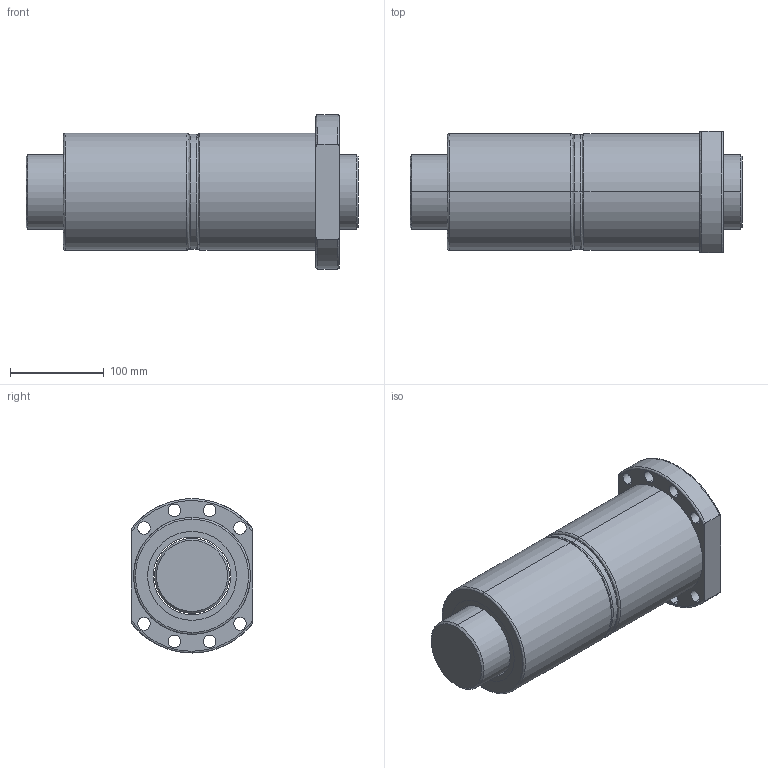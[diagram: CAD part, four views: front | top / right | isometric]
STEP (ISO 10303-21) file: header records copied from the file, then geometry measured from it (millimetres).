
FILE_DESCRIPTION (( 'STEP AP203' ), '1' );
FILE_NAME ('DFU08020.STEP', '2013-01-21T15:36:07', ( 'Halezer' ), ( '' ), 'SwSTEP 2.0', 'SolidWorks 2010', '' );
FILE_SCHEMA (( 'CONFIG_CONTROL_DESIGN' ));
Length unit declared in the file: millimetre
Products named in the file (1): DFU08020
Bounding box: 355 x 130 x 164.74 mm (x, y, z)
Volume: 3940062.9 mm3; surface area: 370491.3 mm2
Topology: 6 solids, 6 shells, 82 faces, 185 edges, 118 vertices
Faces by surface type: cylinder 45, plane 17, bspline 16, cone 4
Entity records: 3472 total; most frequent: CARTESIAN_POINT 1533, DIRECTION 401, ORIENTED_EDGE 370, EDGE_CURVE 185, AXIS2_PLACEMENT_3D 173, VERTEX_POINT 118, EDGE_LOOP 111, CIRCLE 106
